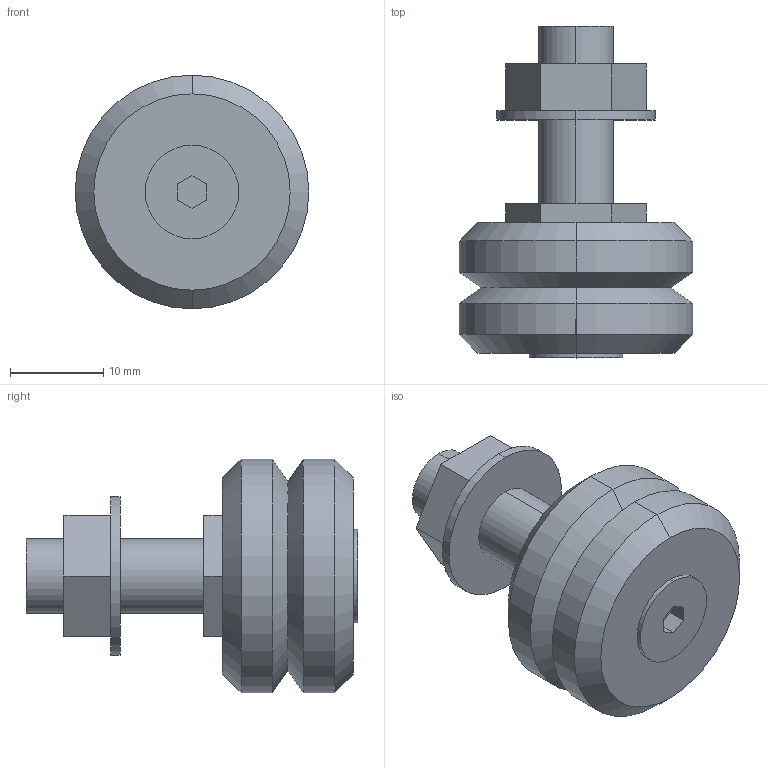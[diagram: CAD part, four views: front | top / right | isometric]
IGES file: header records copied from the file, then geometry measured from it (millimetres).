
Start section: 3D InterOp IGES (v. 2019 1.0.2), Spatial Corp. Copyright (c) 1999-2017.
Global section: file name: SS LJ25 C.igs; native system: Spatial Corp.; preprocessor: 3D InterOp GENERIC/IGES 3.0; author: Noname; organization: Noname; date: 20220628.114758; units: millimetre
Bounding box: 25 x 35.5 x 25 mm (x, y, z)
Surface area: 3122.6 mm2 (no closed solid volume)
Topology: 0 solids, 0 shells, 47 faces, 208 edges, 208 vertices
Faces by surface type: extrusion 27, revolution 20
